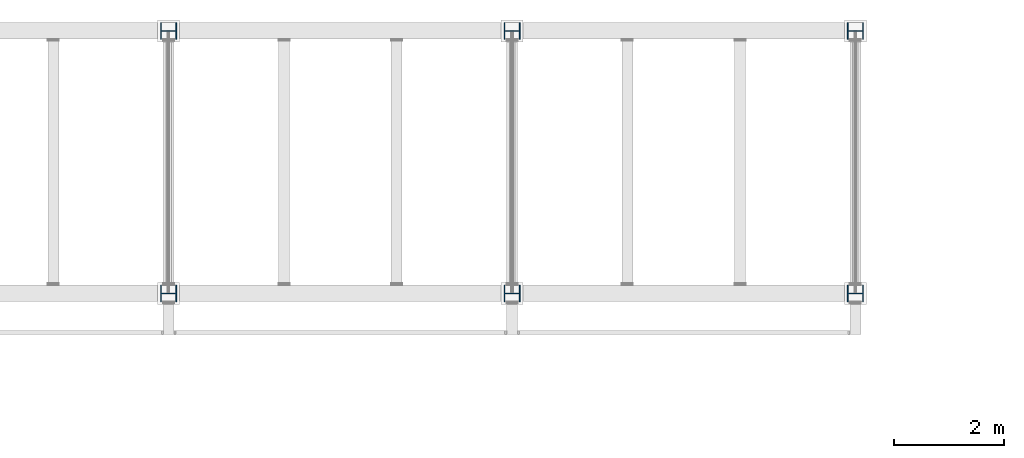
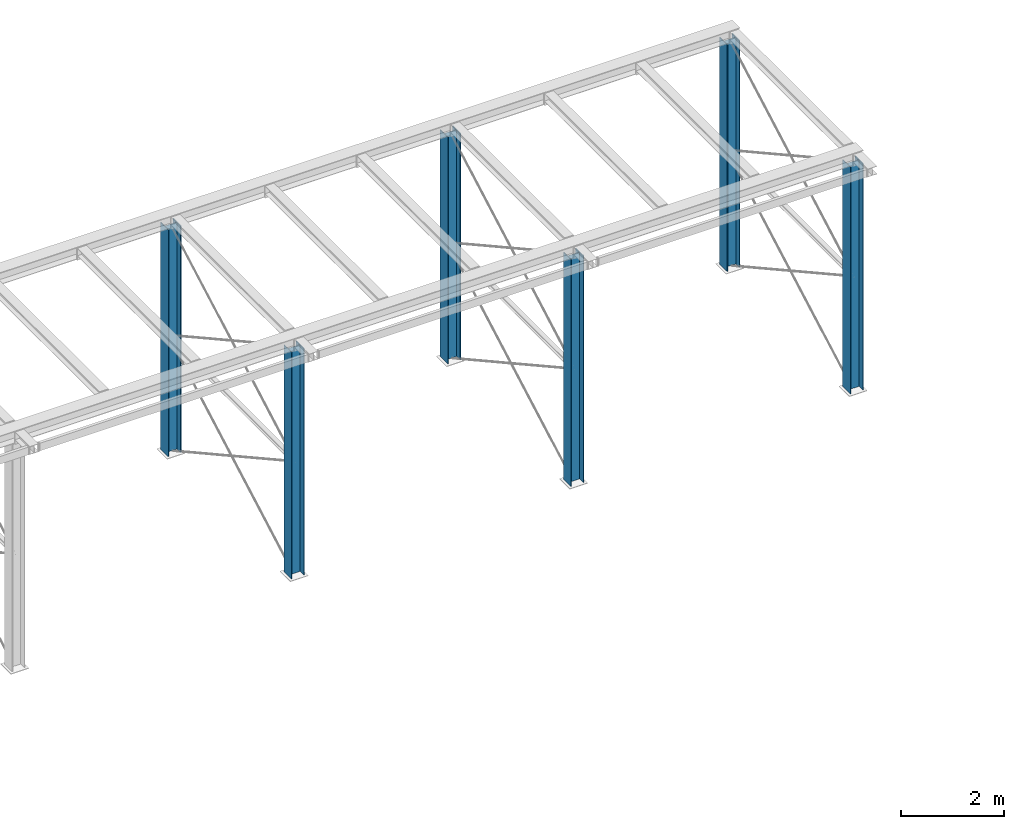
# One storey, part 4 of 24: 6 columns.
"""IFC2X3 building model written with IfcOpenShell, lengths in metres."""

from ifc_helpers import new_model, entity, si_unit, converted_unit, derived_unit, frame, origin, place, context, subcontext, project, spatial, polyline, outline, extrude, material, element, save


model = new_model("IFC2X3")

# Units and contexts
model_context = context("Model", 3, precision=1e-05, world=origin())
body_context = subcontext(model_context, "Body", "Model", "MODEL_VIEW")
ifc_project = project(units=[si_unit("LENGTHUNIT", "METRE"), si_unit("AREAUNIT", "SQUARE_METRE"), si_unit("VOLUMEUNIT", "CUBIC_METRE"), si_unit("MASSUNIT", "GRAM", prefix="KILO"), converted_unit("PLANEANGLEUNIT", "DEGREE", entity("IfcPlaneAngleMeasure", 0.0174532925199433), si_unit("PLANEANGLEUNIT", "RADIAN"), dimensions=[0, 0, 0, 0, 0, 0, 0]), derived_unit("THERMALTRANSMITTANCEUNIT", [(si_unit("POWERUNIT", "WATT"), 1), (si_unit("THERMODYNAMICTEMPERATUREUNIT", "KELVIN"), -1), (si_unit("LENGTHUNIT", "METRE"), -2)]), derived_unit("VOLUMETRICFLOWRATEUNIT", [(si_unit("LENGTHUNIT", "METRE"), 3), (converted_unit("TIMEUNIT", "hour", entity("IfcTimeMeasure", 3600.0), si_unit("TIMEUNIT", "SECOND"), dimensions=[0, 0, 1, 0, 0, 0, 0]), -1), (si_unit("LENGTHUNIT", "METRE"), -1)])], contexts=[model_context])

# Site, building, storey
site_placement = place(None, origin())
site = spatial("IfcSite", under=ifc_project, at=site_placement, Name="TWP_Speiseverteilzentrum SBW VZ II", CompositionType="ELEMENT")
building_placement = place(site_placement, origin())
building = spatial("IfcBuilding", under=site, at=building_placement, Name="Speiseverteilzentrum SBW VZ II", CompositionType="ELEMENT")
storey_placement = place(building_placement, frame((0.0, 0.0, 0.6957)))
storey = spatial("IfcBuildingStorey", under=building, at=storey_placement, Name="EG_Technik_FFB", CompositionType="ELEMENT", Elevation=0.6957)

# Columns
ifc_material_1 = material(Name="S235")
column_1_placement = place(storey_placement, frame((110.145, 92.0999999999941, 0.665), z_axis=(0.0, 0.0, 1.0), x_axis=(1.22464679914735e-16, 1.0, 0.0)))
element("IfcColumn", 1, at=column_1_placement, inside=storey, material=ifc_material_1, Name="Rahmenstiel", context=body_context, shape_type="SweptSolid", body=[
    extrude(outline(polyline([(-0.15, 0.145), (-0.15, 0.131), (-0.00424999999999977, 0.131), (-0.00424999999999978, -0.131), (-0.15, -0.131), (-0.15, -0.145), (0.15, -0.145), (0.15, -0.131), (0.00425000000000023, -0.131), (0.00425000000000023, 0.131), (0.15, 0.131), (0.15, 0.145), (-0.15, 0.145)])), frame((0.15, 0.145, 0.0), z_axis=(0.0, 0.0, 1.0), x_axis=(1.0, 0.0, 0.0)), (0.0, 0.0, 1.0), 5.365),
])
ifc_material_2 = material(Name="S235")
column_2_placement = place(storey_placement, frame((110.145, 87.3249999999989, 0.665), z_axis=(0.0, 0.0, 1.0), x_axis=(1.22464679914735e-16, 1.0, 0.0)))
element("IfcColumn", 2, at=column_2_placement, inside=storey, material=ifc_material_2, Name="Rahmenstiel", context=body_context, shape_type="SweptSolid", body=[
    extrude(outline(polyline([(-0.15, 0.145), (-0.15, 0.131), (-0.00424999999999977, 0.131), (-0.00424999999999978, -0.131), (-0.15, -0.131), (-0.15, -0.145), (0.15, -0.145), (0.15, -0.131), (0.00425000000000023, -0.131), (0.00425000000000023, 0.131), (0.15, 0.131), (0.15, 0.145), (-0.15, 0.145)])), frame((0.15, 0.145, 0.0), z_axis=(0.0, 0.0, 1.0), x_axis=(1.0, 0.0, 0.0)), (0.0, 0.0, 1.0), 5.365),
])
ifc_material_3 = material(Name="S235")
column_3_placement = place(storey_placement, frame((103.895, 92.0999999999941, 0.665), z_axis=(0.0, 0.0, 1.0), x_axis=(1.22464679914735e-16, 1.0, 0.0)))
element("IfcColumn", 3, at=column_3_placement, inside=storey, material=ifc_material_3, Name="Rahmenstiel", context=body_context, shape_type="SweptSolid", body=[
    extrude(outline(polyline([(-0.15, 0.145), (-0.15, 0.131), (-0.00424999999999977, 0.131), (-0.00424999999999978, -0.131), (-0.15, -0.131), (-0.15, -0.145), (0.15, -0.145), (0.15, -0.131), (0.00425000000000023, -0.131), (0.00425000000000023, 0.131), (0.15, 0.131), (0.15, 0.145), (-0.15, 0.145)])), frame((0.15, 0.145, 0.0), z_axis=(0.0, 0.0, 1.0), x_axis=(1.0, 0.0, 0.0)), (0.0, 0.0, 1.0), 5.365),
])
ifc_material_4 = material(Name="S235")
column_4_placement = place(storey_placement, frame((103.895, 87.3249999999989, 0.665), z_axis=(0.0, 0.0, 1.0), x_axis=(1.22464679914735e-16, 1.0, 0.0)))
element("IfcColumn", 4, at=column_4_placement, inside=storey, material=ifc_material_4, Name="Rahmenstiel", context=body_context, shape_type="SweptSolid", body=[
    extrude(outline(polyline([(-0.15, 0.145), (-0.15, 0.131), (-0.00424999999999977, 0.131), (-0.00424999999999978, -0.131), (-0.15, -0.131), (-0.15, -0.145), (0.15, -0.145), (0.15, -0.131), (0.00425000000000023, -0.131), (0.00425000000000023, 0.131), (0.15, 0.131), (0.15, 0.145), (-0.15, 0.145)])), frame((0.15, 0.145, 0.0), z_axis=(0.0, 0.0, 1.0), x_axis=(1.0, 0.0, 0.0)), (0.0, 0.0, 1.0), 5.365),
])
ifc_material_5 = material(Name="S235")
column_5_placement = place(storey_placement, frame((97.64175, 92.0999999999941, 0.665), z_axis=(0.0, 0.0, 1.0), x_axis=(1.22464679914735e-16, 1.0, 0.0)))
element("IfcColumn", 5, at=column_5_placement, inside=storey, material=ifc_material_5, Name="Rahmenstiel", context=body_context, shape_type="SweptSolid", body=[
    extrude(outline(polyline([(-0.15, 0.145), (-0.15, 0.131), (-0.00424999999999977, 0.131), (-0.00424999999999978, -0.131), (-0.15, -0.131), (-0.15, -0.145), (0.15, -0.145), (0.15, -0.131), (0.00425000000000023, -0.131), (0.00425000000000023, 0.131), (0.15, 0.131), (0.15, 0.145), (-0.15, 0.145)])), frame((0.15, 0.145, 0.0), z_axis=(0.0, 0.0, 1.0), x_axis=(1.0, 0.0, 0.0)), (0.0, 0.0, 1.0), 5.365),
])
ifc_material_6 = material(Name="S235")
column_6_placement = place(storey_placement, frame((97.64175, 87.3249999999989, 0.665), z_axis=(0.0, 0.0, 1.0), x_axis=(1.22464679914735e-16, 1.0, 0.0)))
element("IfcColumn", 6, at=column_6_placement, inside=storey, material=ifc_material_6, Name="Rahmenstiel", context=body_context, shape_type="SweptSolid", body=[
    extrude(outline(polyline([(-0.15, 0.145), (-0.15, 0.131), (-0.00424999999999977, 0.131), (-0.00424999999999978, -0.131), (-0.15, -0.131), (-0.15, -0.145), (0.15, -0.145), (0.15, -0.131), (0.00425000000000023, -0.131), (0.00425000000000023, 0.131), (0.15, 0.131), (0.15, 0.145), (-0.15, 0.145)])), frame((0.15, 0.145, 0.0), z_axis=(0.0, 0.0, 1.0), x_axis=(1.0, 0.0, 0.0)), (0.0, 0.0, 1.0), 5.365),
])

save(model, "model.ifc")
